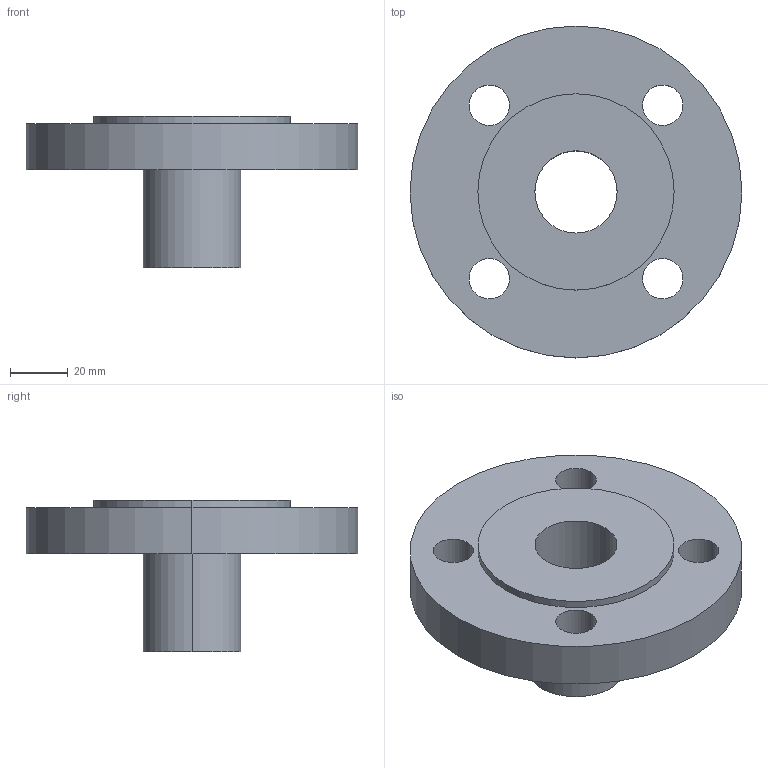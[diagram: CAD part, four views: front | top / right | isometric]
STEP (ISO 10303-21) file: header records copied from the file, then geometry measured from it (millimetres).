
FILE_DESCRIPTION (( 'STEP AP214' ), '1' );
FILE_NAME ('PN40 DN25 Type 02 in 33 - (Type A Face).STEP', '2018-12-29T20:36:56', ( '' ), ( '' ), 'SwSTEP 2.0', 'SolidWorks 2019', '' );
FILE_SCHEMA (( 'AUTOMOTIVE_DESIGN' ));
Length unit declared in the file: millimetre
Products named in the file (1): PN40 DN25 Type 02 in 33 - (Type A Face)
Bounding box: 115 x 115 x 52.6 mm (x, y, z)
Volume: 158569.5 mm3; surface area: 43839.4 mm2
Topology: 2 solids, 2 shells, 27 faces, 62 edges, 40 vertices
Faces by surface type: cylinder 18, plane 5, cone 4
Entity records: 851 total; most frequent: DIRECTION 158, CARTESIAN_POINT 130, ORIENTED_EDGE 124, AXIS2_PLACEMENT_3D 68, EDGE_CURVE 62, CIRCLE 40, VERTEX_POINT 40, EDGE_LOOP 40
